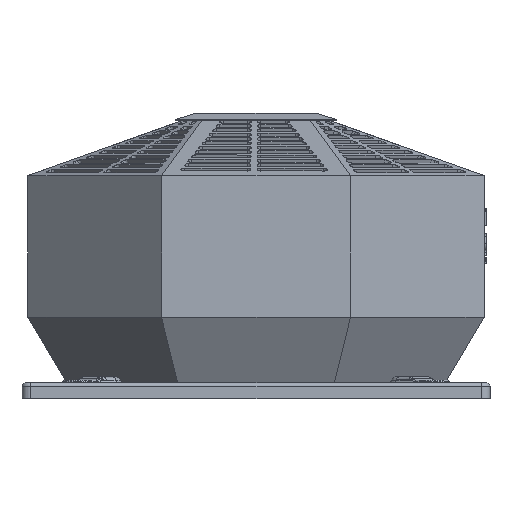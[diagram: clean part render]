
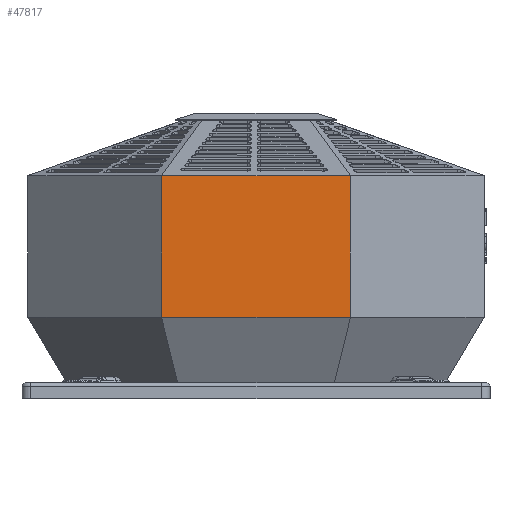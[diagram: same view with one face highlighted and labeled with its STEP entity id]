
A CAD part, left-side view. The second image highlights one B-rep face of the part: STEP entity #47817.
In plain terms, the highlighted planar face has unit normal (-1, 0, 0).
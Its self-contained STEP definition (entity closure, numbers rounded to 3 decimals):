
#5526=FACE_OUTER_BOUND('',#8276,.T.);
#8276=EDGE_LOOP('',(#41025,#41026,#41027,#41028));
#13370=LINE('',#80881,#17498);
#13372=LINE('',#80884,#17500);
#13377=LINE('',#80894,#17505);
#13378=LINE('',#80897,#17506);
#17498=VECTOR('',#62623,10.);
#17500=VECTOR('',#62627,10.);
#17505=VECTOR('',#62636,10.);
#17506=VECTOR('',#62641,10.);
#21752=VERTEX_POINT('',#80864);
#21753=VERTEX_POINT('',#80870);
#21756=VERTEX_POINT('',#80880);
#21759=VERTEX_POINT('',#80892);
#28213=EDGE_CURVE('',#21756,#21753,#13370,.T.);
#28215=EDGE_CURVE('',#21753,#21752,#13372,.T.);
#28220=EDGE_CURVE('',#21759,#21752,#13377,.T.);
#28221=EDGE_CURVE('',#21759,#21756,#13378,.T.);
#41025=ORIENTED_EDGE('',*,*,#28215,.T.);
#41026=ORIENTED_EDGE('',*,*,#28220,.F.);
#41027=ORIENTED_EDGE('',*,*,#28221,.T.);
#41028=ORIENTED_EDGE('',*,*,#28213,.T.);
#43517=PLANE('',#51500);
#47817=ADVANCED_FACE('',(#5526),#43517,.T.);
#51500=AXIS2_PLACEMENT_3D('',#80896,#62639,#62640);
#62623=DIRECTION('',(0.,0.,1.));
#62627=DIRECTION('',(0.,1.,0.));
#62636=DIRECTION('',(0.,0.,1.));
#62639=DIRECTION('center_axis',(-1.,0.,0.));
#62640=DIRECTION('ref_axis',(0.,-1.,0.));
#62641=DIRECTION('',(0.,-1.,0.));
#80864=CARTESIAN_POINT('',(-215.796,90.838,190.));
#80870=CARTESIAN_POINT('',(-215.796,-84.788,190.));
#80880=CARTESIAN_POINT('',(-215.796,-84.788,58.5));
#80881=CARTESIAN_POINT('',(-215.796,-84.788,-2.5));
#80884=CARTESIAN_POINT('',(-215.796,152.932,190.));
#80892=CARTESIAN_POINT('',(-215.796,90.838,58.5));
#80894=CARTESIAN_POINT('',(-215.796,90.838,-2.5));
#80896=CARTESIAN_POINT('Origin',(-215.796,90.838,-2.5));
#80897=CARTESIAN_POINT('',(-215.796,152.932,58.5));
